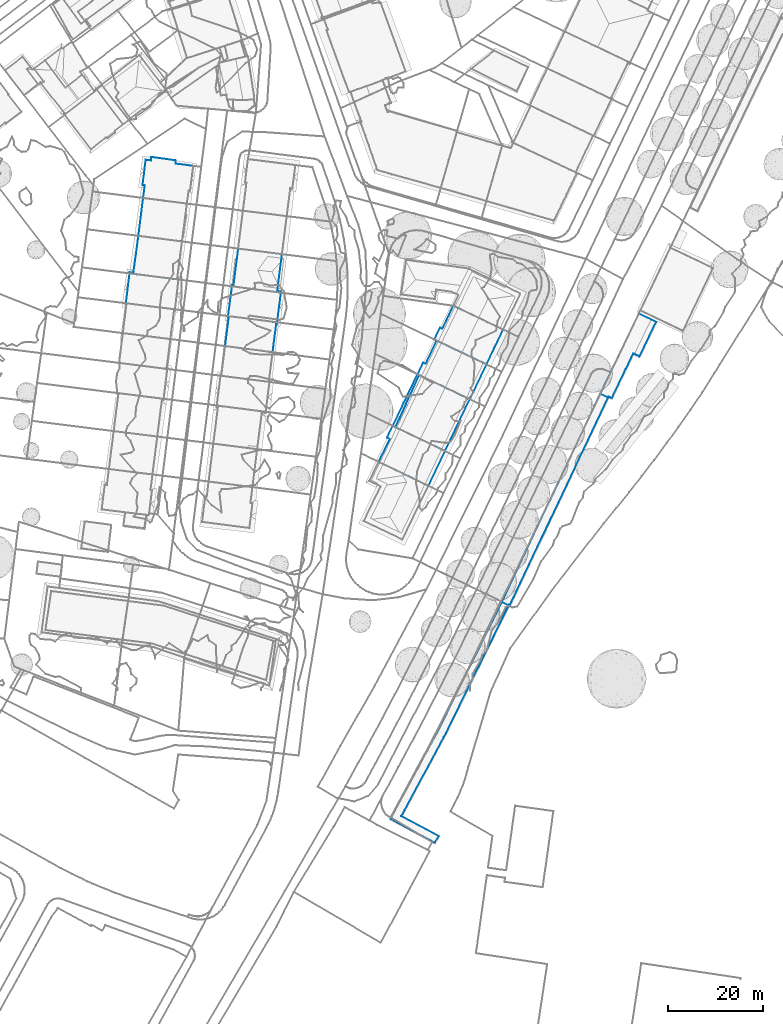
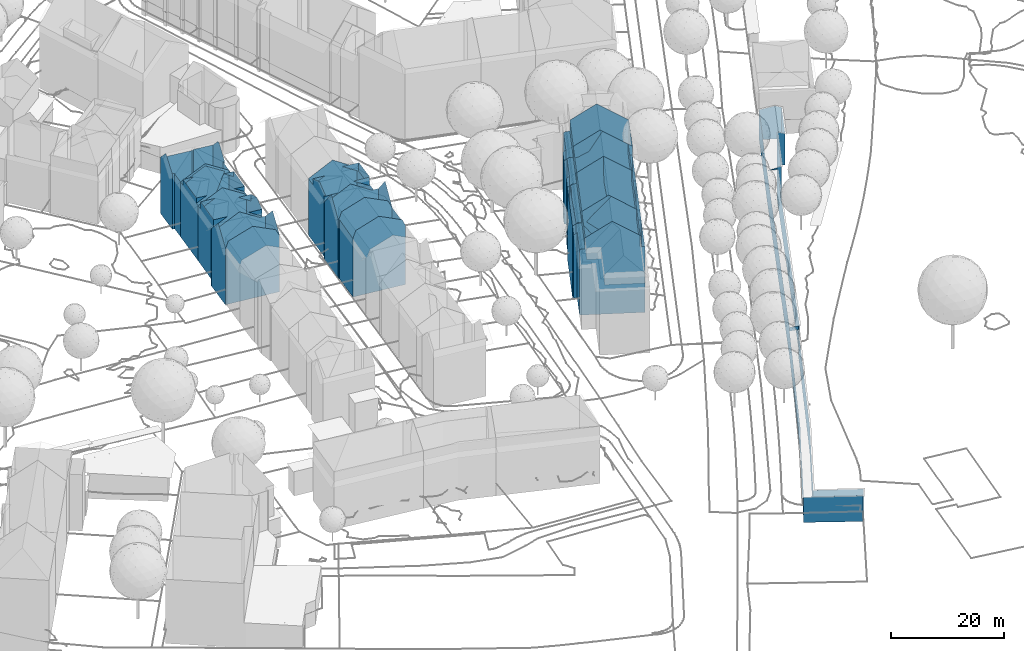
# Not in any storey, part 35 of 494: 13 walls.
"""IFC2X3 model written with IfcOpenShell, lengths in metres."""

from ifc_helpers import new_model, si_unit, frame, origin_with_axes, place, context, subcontext, project, faceted_brep, element, save


model = new_model("IFC2X3")

# Units and contexts
model_context = context("Model", 3, precision=1e-05, world=origin_with_axes())
body_context = subcontext(model_context, "Body", "Model", "MODEL_VIEW")
ifc_project = project(units=[si_unit("AREAUNIT", "SQUARE_METRE"), si_unit("LENGTHUNIT", "METRE")], contexts=[model_context])

# Walls
wall_1_placement = place(None, frame((495.5237320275, 54.2186160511, 497.0566), z_axis=(0.0, 0.0, 1.0), x_axis=(1.0, 0.0, 0.0)))
element("IfcWall", 1, at=wall_1_placement, Name="Wall 0", context=body_context, shape_type="Brep", body=[
    faceted_brep([(2.0359999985, 2.9228000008, 15.9155), (0.5759999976, -0.2784000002, 0.508), (2.2589999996, 3.4111000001, 0.44), (5.2080000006, 10.8144000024, 15.4666), (5.5590000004, 10.6464000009, 0.309), (5.2080000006, 10.8144000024, 0.0001), (0.0, 0.0, 15.4666), (2.3440000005, 4.8662, 15.4666), (0.0, 0.0, 0.0), (2.3440000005, 4.8662, 0.0001), (0.5759999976, -0.2784000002, 15.9735), (0.5370000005, -0.2588, 0.473), (5.5590000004, 10.6464000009, 15.7755)], [[[0, 1, 2]], [[3, 4, 5]], [[6, 7, 8]], [[5, 9, 3]], [[10, 6, 1]], [[6, 11, 1]], [[11, 6, 8]], [[4, 12, 2]], [[2, 12, 0]], [[10, 1, 0]], [[12, 4, 3]], [[7, 9, 8]], [[9, 7, 3]]]),
])
wall_2_placement = place(None, frame((495.5237320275, 54.2186160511, 497.0566), z_axis=(0.0, 0.0, 1.0), x_axis=(1.0, 0.0, 0.0)))
element("IfcWall", 2, at=wall_2_placement, Name="Wall 1", context=body_context, shape_type="Brep", body=[
    faceted_brep([(13.0480000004, 0.871100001, 16.1765), (12.3139999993, -0.6543000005, 18.5382), (10.2449999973, -4.9483000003, 16.1765), (15.4690000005, 5.8974000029, 16.1765), (15.4690000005, 5.8974000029, 18.5383), (14.8159999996, 4.5410000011, 16.1765), (1.4809999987, -0.7148999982, 18.5573), (4.068, 4.6552000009, 18.5573), (1.4809999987, -0.7148999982, 16.1765), (6.6919999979, 10.1025000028, 16.7714), (6.0260000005, 8.7187000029, 16.1765), (6.6919999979, 10.1025000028, 16.1765), (2.868999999, 4.6152000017, 15.9285), (2.8189999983, 4.638600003, 15.8845), (2.868999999, 4.6152000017, 1.9099), (2.8189999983, 4.638600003, 1.9099), (2.0370000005, 2.8769000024, 6.1695), (2.2569999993, 3.3349000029, 1.9099), (1.5599999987, 1.8789000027, 15.9345), (2.1970000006, 3.2099000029, 15.9325), (1.5599999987, 1.8789000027, 1.9099), (0.5759999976, -0.2784000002, 15.9745), (0.5759999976, -0.2784000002, 1.9099), (5.5590000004, 10.6464000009, 15.7755), (5.5590000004, 10.6464000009, 1.9099), (16.1620000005, 5.5644000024, 16.1765), (10.9659999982, -5.2958999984, 16.1765), (16.1620000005, 5.5644000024, 1.9099), (5.7670000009, -2.7851999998, 21.8379), (10.2449999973, -4.9483000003, 18.5382), (10.9659999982, -5.2958999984, 1.9098), (10.2449999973, -4.9483000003, 1.9098), (0.805999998, -0.3886999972, 16.1765), (5.748999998, -2.7763999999, 1.9099), (6.0159999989, 10.4266999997, 1.9099), (6.0159999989, 10.4266999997, 16.1765), (6.6919999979, 10.1025000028, 1.9099), (10.9839999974, 8.0459000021, 1.9099), (15.4690000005, 5.8974000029, 1.9099), (6.6919999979, 10.1025000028, 18.5573), (10.9839999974, 8.0459000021, 21.8379)], [[[0, 1, 2]], [[3, 4, 5]], [[4, 0, 5]], [[6, 7, 8]], [[7, 9, 10]], [[11, 10, 9]], [[12, 13, 14]], [[15, 14, 13]], [[16, 12, 17]], [[16, 18, 19]], [[18, 16, 20]], [[16, 17, 20]], [[21, 18, 22]], [[15, 13, 23]], [[24, 15, 23]], [[25, 26, 27]], [[2, 28, 6]], [[2, 6, 8]], [[29, 28, 2]], [[26, 2, 30]], [[8, 30, 2]], [[8, 21, 31]], [[21, 8, 32]], [[30, 8, 31]], [[22, 33, 21]], [[21, 33, 31]], [[34, 24, 23]], [[35, 11, 23]], [[36, 23, 11]], [[34, 23, 36]], [[36, 11, 37]], [[25, 27, 38]], [[37, 3, 38]], [[3, 37, 11]], [[9, 39, 40]], [[9, 40, 4]], [[3, 25, 38]], [[4, 3, 9]], [[9, 3, 11]], [[4, 1, 0]], [[29, 2, 1]], [[7, 10, 8]], [[39, 9, 7]], [[19, 12, 16]], [[12, 14, 17]], [[18, 20, 22]], [[26, 30, 27]]]),
])
wall_3_placement = place(None, frame((504.2517320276, 72.3416160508, 498.9665), z_axis=(0.0, 0.0, 1.0), x_axis=(1.0, 0.0, 0.0)))
element("IfcWall", 3, at=wall_3_placement, Name="Wall 0", context=body_context, shape_type="Brep", body=[
    faceted_brep([(12.6840000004, -1.5888999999, 4.0276), (11.811999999, -3.4130999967, 16.1344), (12.0669999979, -2.878899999, 0.0), (13.555999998, 0.2354000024, 16.1424), (12.6840000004, -1.5888999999, 16.1384), (13.3420000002, -0.2138999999, 0.0), (14.4289999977, 2.0596000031, 8.0722), (14.4289999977, 2.0596000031, 0.0), (10.9389999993, -5.2372999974, 12.0938), (10.9389999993, -5.2372999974, 4.0216), (10.9389999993, -5.2372999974, 8.0582), (10.9389999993, -5.2372999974, 0.0), (1.4849999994, -0.7108999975, 16.6474), (2.7699999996, 1.9570000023, 16.6474), (1.4849999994, -0.7108999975, 14.2666), (5.0020000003, 6.5898000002, 16.6474), (2.9349999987, 2.2998000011, 14.2666), (5.0020000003, 6.5898000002, 14.2666), (3.3110000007, 5.6563000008, 0.0), (3.0940000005, 5.2031000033, 3.4127), (3.9849999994, 7.0654000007, 0.0), (1.6769999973, 2.2412, 0.0), (1.6769999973, 2.2412, 13.9836), (2.2540000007, 3.447300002, 0.0), (3.1349999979, 5.2881000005, 13.9766), (3.9849999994, 7.0654000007, 13.9726), (1.3539999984, 2.3965000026, 3.7946), (1.3719999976, 2.3867000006, 13.7157), (1.1909999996, 2.4736000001, 0.0), (0.0, 0.0, 13.5567), (0.0, 0.0, 0.0), (4.0260000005, 7.0596000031, 0.0), (4.0260000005, 7.0596000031, 14.0036), (5.7769999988, -2.7655999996, 0.0), (0.8079999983, -0.3866999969, 0.0), (1.4849999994, -0.7108999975, 0.0), (10.9389999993, -5.2372999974, 16.1304), (5.7769999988, -2.7655999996, 19.9271), (0.8079999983, -0.3866999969, 14.2666), (9.2909999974, 4.5293000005, 19.9271), (4.3259999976, 6.9150000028, 14.2666), (5.0020000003, 6.5898000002, 0.0), (14.4289999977, 2.0596000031, 16.1454), (9.2909999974, 4.5293000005, 0.0), (4.3259999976, 6.9150000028, 0.0), (1.1909999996, 2.4736000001, 13.5567)], [[[0, 1, 2]], [[3, 4, 5]], [[6, 5, 7]], [[1, 8, 2]], [[0, 2, 5]], [[9, 2, 10]], [[9, 11, 2]], [[12, 13, 14]], [[13, 15, 16]], [[16, 14, 13]], [[17, 16, 15]], [[18, 19, 20]], [[21, 22, 19]], [[23, 21, 19]], [[24, 25, 19]], [[18, 23, 19]], [[26, 27, 22]], [[28, 26, 21]], [[22, 21, 26]], [[29, 28, 30]], [[25, 31, 20]], [[31, 25, 32]], [[29, 33, 9]], [[29, 9, 10]], [[8, 14, 10]], [[11, 9, 33]], [[29, 34, 35]], [[33, 29, 35]], [[8, 36, 37]], [[14, 8, 12]], [[34, 29, 30]], [[10, 14, 29]], [[38, 29, 14]], [[12, 8, 37]], [[15, 39, 17]], [[32, 40, 17]], [[32, 17, 41]], [[39, 42, 17]], [[42, 6, 17]], [[6, 41, 17]], [[43, 6, 7]], [[32, 44, 31]], [[32, 41, 44]], [[6, 43, 41]], [[3, 5, 42]], [[4, 0, 5]], [[6, 42, 5]], [[0, 4, 1]], [[36, 8, 1]], [[8, 10, 2]], [[22, 24, 19]], [[20, 19, 25]], [[27, 26, 45]], [[28, 45, 26]], [[45, 28, 29]]]),
])
wall_4_placement = place(None, frame((500.7317320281, 65.0330160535, 498.9665), z_axis=(0.0, 0.0, 1.0), x_axis=(1.0, 0.0, 0.0)))
element("IfcWall", 4, at=wall_4_placement, Name="Wall 0", context=body_context, shape_type="Brep", body=[
    faceted_brep([(13.7829999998, 2.3944999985, 16.6284), (10.2609999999, -4.9180000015, 16.6274), (13.7829999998, 2.3944999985, 14.2666), (1.6799999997, 2.1992000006, 0.0), (1.6799999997, 2.1992000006, 13.9996), (2.9289999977, 4.8095999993, 13.9936), (3.2749999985, 5.5321999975, 0.0), (4.0119999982, 7.0722999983, 3.5056), (4.0119999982, 7.0722999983, 0.0), (1.175999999, 2.441399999, 13.5567), (1.175999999, 2.441399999, 0.0), (0.0, 0.0, 13.5567), (0.0, 0.0, 0.0), (14.4579999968, 2.0713, 14.2666), (10.9539999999, -5.25, 14.2666), (14.4579999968, 2.0713, 0.0), (10.2609999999, -4.9180000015, 14.2666), (5.7759999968, -2.7685000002, 19.928), (1.4839999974, -0.7109000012, 16.6474), (1.4839999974, -0.7109000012, 14.2666), (10.9539999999, -5.25, 0.0), (10.2609999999, -4.9180000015, 0.0), (0.8079999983, -0.3877000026, 0.0), (5.7969999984, -2.7783000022, 0.0), (0.8079999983, -0.3877000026, 14.2666), (4.5700000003, 6.8057000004, 0.0), (9.2969999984, 4.5429999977, 0.0), (4.0119999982, 7.0722999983, 10.028), (13.7829999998, 2.3944999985, 0.0), (4.0119999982, 7.0722999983, 13.9886), (5.004999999, 6.5976999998, 14.2666), (5.004999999, 6.5976999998, 16.6474), (9.2969999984, 4.5429999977, 19.9271), (4.3279999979, 6.9219000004, 14.2666), (3.5739999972, 3.6279000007, 14.2666), (3.5259999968, 3.5263999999, 16.6474)], [[[0, 1, 2]], [[3, 4, 5]], [[6, 3, 5]], [[6, 5, 7]], [[7, 8, 6]], [[9, 3, 10]], [[11, 10, 12]], [[10, 11, 9]], [[13, 14, 15]], [[16, 17, 18]], [[16, 18, 19]], [[14, 16, 20]], [[16, 1, 17]], [[20, 16, 19]], [[19, 11, 21]], [[12, 22, 11]], [[23, 11, 22]], [[20, 19, 21]], [[21, 11, 23]], [[19, 24, 11]], [[8, 7, 25]], [[2, 26, 27]], [[7, 27, 26]], [[26, 2, 28]], [[25, 7, 26]], [[2, 15, 28]], [[27, 29, 30]], [[30, 31, 32]], [[2, 30, 32]], [[13, 15, 2]], [[32, 0, 2]], [[27, 30, 2]], [[30, 29, 33]], [[1, 16, 2]], [[34, 35, 30]], [[18, 35, 19]], [[35, 34, 19]], [[31, 30, 35]], [[5, 29, 27]], [[7, 5, 27]], [[4, 3, 9]], [[14, 20, 15]]]),
])
wall_5_placement = place(None, frame((492.5717320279, 46.6580160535, 498.9665), z_axis=(0.0, 0.0, 1.0), x_axis=(1.0, 0.0, 0.0)))
element("IfcWall", 5, at=wall_5_placement, Name="Wall 0", context=body_context, shape_type="Brep", body=[
    faceted_brep([(13.1979999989, 2.6122999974, 14.2666), (13.1979999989, 2.6122999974, 16.6283), (11.7980000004, -0.2939000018, 16.6283), (9.6889999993, -4.6719000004, 14.8125), (9.6889999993, -4.6719000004, 14.2666), (9.6889999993, -4.6719000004, 16.6283), (2.6789999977, 3.2030999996, 16.6474), (4.4329999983, 6.8456999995, 16.6474), (0.9230000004, -0.4453000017, 14.2666), (4.4329999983, 6.8456999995, 14.2666), (2.3319999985, 4.811499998, 14.0606), (1.7639999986, 5.0946999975, 13.5567), (2.3319999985, 4.811499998, 0.0), (1.7639999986, 5.0946999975, 0.0), (0.0, 0.0, 14.0496), (0.9690000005, 1.998999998, 0.0), (0.0, 0.0, 7.1073), (0.0, 0.0, 0.0), (2.9519999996, 7.5605999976, 0.0), (2.9519999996, 7.5605999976, 13.5567), (13.9179999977, 2.2646999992, 14.2666), (10.4279999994, -5.0283000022, 14.2666), (13.9179999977, 2.2646999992, -0.0001), (5.2089999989, -2.5127000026, 19.928), (0.9230000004, -0.4453000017, 16.6474), (9.6889999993, -4.6719000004, -0.0001), (0.2469999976, -0.1191000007, 14.2666), (5.2339999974, -2.5243999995, -0.0001), (0.1689999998, -0.0820000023, 0.0), (10.4279999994, -5.0283000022, -0.0001), (0.2469999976, -0.1191000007, 0.0), (3.5279999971, 7.2821999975, 14.0646), (3.7579999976, 7.1719000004, 14.2666), (3.9690000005, 7.0692999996, 0.0), (13.1979999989, 2.6122999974, -0.0001), (8.7190000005, 4.7753999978, 0.0), (8.7190000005, 4.7753999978, 19.928)], [[[0, 1, 2]], [[3, 4, 0]], [[3, 0, 2]], [[5, 3, 2]], [[6, 7, 8]], [[7, 9, 8]], [[10, 11, 12]], [[11, 13, 12]], [[14, 15, 16]], [[14, 10, 15]], [[16, 15, 17]], [[12, 15, 10]], [[18, 11, 19]], [[18, 13, 11]], [[20, 21, 22]], [[23, 8, 3]], [[24, 8, 23]], [[3, 5, 23]], [[25, 21, 4]], [[3, 8, 4]], [[4, 8, 16]], [[26, 14, 8]], [[8, 14, 16]], [[16, 27, 4]], [[28, 16, 17]], [[29, 21, 25]], [[25, 4, 27]], [[28, 30, 16]], [[16, 30, 27]], [[31, 32, 9]], [[31, 9, 19]], [[33, 19, 9]], [[18, 19, 33]], [[0, 34, 35]], [[9, 35, 33]], [[35, 9, 0]], [[9, 7, 36]], [[9, 36, 1]], [[34, 20, 22]], [[34, 0, 20]], [[1, 0, 9]], [[8, 24, 6]], [[21, 29, 22]]]),
])
wall_6_placement = place(None, frame((211.8297320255, 101.9383160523, 526.7541), z_axis=(0.0, 0.0, 1.0), x_axis=(1.0, 0.0, 0.0)))
element("IfcWall", 6, at=wall_6_placement, Name="Wall 1", context=body_context, shape_type="Brep", body=[
    faceted_brep([(306.6060000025, -84.6942999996, -22.4562), (306.6080000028, -84.6933999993, -26.1389), (306.6060000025, -84.6942999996, -27.9427), (306.6052000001, -84.6944000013, -21.6243), (306.6070000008, -84.692400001, -27.9427), (308.1209999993, -85.2069999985, -24.706), (308.313000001, -85.2412, -27.9427), (308.1209999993, -85.2069999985, -23.0782), (308.1209999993, -85.2069999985, -26.3349), (308.1209999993, -85.2069999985, -27.9427), (285.512000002, -129.5995999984, -22.1713), (293.3480000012, -133.7763999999, -27.9427), (285.512000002, -129.5995999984, -23.6291), (285.512000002, -129.5995999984, -25.088), (285.512000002, -129.5995999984, -27.9427), (292.4979999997, -135.1669999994, -23.8301), (292.4979999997, -135.1669999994, -27.9427), (292.4979999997, -135.1669999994, -22.3713), (293.3480000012, -133.7763999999, -22.1083), (308.0360000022, -85.378899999, -21.4493), (308.0360000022, -85.378899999, -22.2123), (335.4580000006, -33.1464999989, -22.8461), (338.9510000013, -25.9023999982, -21.1473), (335.4580000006, -33.1464999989, -21.1473), (335.4580000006, -33.1464999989, -27.9427), (338.9510000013, -25.9023999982, -27.9427), (328.8660000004, -41.7870999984, -21.4213), (328.8660000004, -41.7870999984, -21.0533), (327.2420000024, -41.003899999, -21.5843), (327.2420000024, -41.003899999, -21.5393), (289.6669999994, -118.191399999, -27.9427), (289.1790000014, -119.0839999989, -27.9427), (289.6669999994, -118.191399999, -22.4003), (289.1810000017, -119.0791000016, -22.4033), (293.3880000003, -111.3975000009, -22.3783), (293.3880000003, -111.3975000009, -27.9427), (287.0720000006, -123.0791000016, -27.9427), (287.0720000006, -123.0791000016, -22.4153), (288.6020000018, -120.1777000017, -22.4053), (286.7400000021, -123.691399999, -27.9427), (283.2259999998, -130.1728999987, -27.9427), (286.7400000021, -123.691399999, -22.4193), (283.2259999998, -130.1728999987, -22.4413), (294.9710000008, -108.2001999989, -22.3872), (294.9710000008, -108.2001999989, -27.9427), (283.2410000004, -130.1807000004, -22.4383), (327.2400000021, -41.0078000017, -27.9427), (327.6119999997, -40.2362999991, -21.5403), (335.3610000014, -24.1719000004, -27.9426), (335.1650000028, -24.5771999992, -21.4983), (335.3610000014, -24.1719000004, -21.4983), (337.887000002, -25.3896999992, -20.7983), (334.393000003, -32.6328000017, -20.7983), (334.3120000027, -32.5938000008, -20.8203), (334.1680000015, -32.5234999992, -20.8613), (334.2990000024, -32.5879000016, -27.9427), (334.1680000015, -32.5234999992, -27.9427), (329.6530000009, -41.8887000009, -27.9427), (329.6530000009, -41.8887000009, -20.8603), (329.2160000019, -41.6796999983, -20.9813), (328.9720000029, -41.5625, -21.0543), (328.9720000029, -41.5625, -27.9427), (333.6909999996, -33.5137000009, -20.8643), (333.6909999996, -33.5137000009, -27.9427), (332.5610000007, -35.8555000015, -27.9427), (332.5610000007, -35.8555000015, -20.8603), (308.313000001, -85.2412, -25.4999), (328.8660000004, -41.7870999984, -27.9427), (310.5970000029, -80.4120999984, -21.4233), (308.313000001, -85.2412, -21.4283), (306.6070000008, -84.692400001, -21.6243), (324.995000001, -45.7617000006, -21.5833), (324.995000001, -45.7617000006, -27.9427), (308.1209999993, -85.2069999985, -21.4493), (306.5199999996, -88.4638999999, -22.2023), (294.876000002, -112.1572000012, -27.9427), (294.876000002, -112.1572000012, -22.1203), (286.1980000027, -128.3213, -27.9427), (294.4140000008, -113.0175999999, -22.1213), (286.1980000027, -128.3213, -22.1643), (294.4140000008, -113.0175999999, -27.9427), (285.9640000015, -128.7569000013, -22.1663), (285.5199999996, -129.5850000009, -22.1683), (285.9140000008, -128.8506000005, -27.9427)], [[[0, 1, 2]], [[1, 0, 3]], [[1, 4, 2]], [[5, 6, 7]], [[6, 5, 8]], [[6, 8, 9]], [[10, 11, 12]], [[12, 11, 13]], [[13, 11, 14]], [[11, 15, 16]], [[17, 15, 18]], [[19, 3, 20]], [[21, 22, 23]], [[22, 24, 25]], [[26, 27, 28]], [[29, 28, 27]], [[30, 31, 32]], [[32, 31, 33]], [[34, 35, 30]], [[34, 30, 32]], [[36, 37, 31]], [[31, 37, 38]], [[38, 33, 31]], [[39, 40, 41]], [[41, 40, 42]], [[37, 36, 39]], [[37, 39, 41]], [[34, 43, 44]], [[44, 35, 34]], [[43, 0, 44]], [[44, 0, 2]], [[16, 15, 42]], [[45, 15, 17]], [[16, 42, 40]], [[42, 15, 45]], [[46, 47, 48]], [[48, 47, 49]], [[49, 50, 48]], [[22, 25, 48]], [[48, 50, 51]], [[51, 22, 48]], [[52, 53, 21]], [[21, 23, 52]], [[54, 24, 21]], [[21, 53, 54]], [[55, 24, 54]], [[55, 54, 56]], [[57, 58, 59]], [[57, 59, 60]], [[61, 57, 60]], [[54, 62, 56]], [[63, 56, 62]], [[62, 64, 63]], [[65, 58, 64]], [[57, 64, 58]], [[65, 64, 62]], [[60, 27, 26]], [[66, 67, 26]], [[60, 26, 61]], [[67, 61, 26]], [[66, 6, 67]], [[68, 69, 66]], [[26, 68, 66]], [[70, 71, 4]], [[72, 4, 71]], [[29, 47, 28]], [[28, 47, 46]], [[46, 71, 28]], [[72, 71, 46]], [[7, 73, 20]], [[5, 7, 74]], [[75, 8, 5]], [[76, 75, 5]], [[7, 20, 74]], [[76, 5, 74]], [[75, 9, 8]], [[19, 20, 73]], [[77, 78, 79]], [[13, 77, 79]], [[75, 76, 80]], [[80, 76, 78]], [[78, 77, 80]], [[79, 81, 12]], [[82, 10, 12]], [[13, 79, 12]], [[13, 14, 83]], [[77, 13, 83]], [[12, 81, 82]], [[70, 1, 3]], [[1, 70, 4]], [[6, 69, 73]], [[6, 73, 7]], [[18, 11, 10]], [[11, 18, 15]], [[3, 0, 20]], [[21, 24, 22]]]),
])
wall_7_placement = place(None, frame((439.5667320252, 79.9246160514, 499.5705), z_axis=(0.0, 0.0, 1.0), x_axis=(1.0, 0.0, 0.0)))
element("IfcWall", 7, at=wall_7_placement, Name="Wall 0", context=body_context, shape_type="Brep", body=[
    faceted_brep([(10.3030000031, -1.2811999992, 12.2708), (10.3030000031, -1.2811999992, 0.0), (10.6560000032, 1.7294999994, 0.0), (10.2280000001, -1.2714999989, 12.2698), (10.2280000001, -1.2714999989, 0.0), (9.5560000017, -1.1875, 0.0), (9.5560000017, -1.1875, 13.5987), (5.2080000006, -0.6464999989, 0.0), (5.2080000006, -0.6464999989, 15.5125), (0.5260000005, -0.0643999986, 13.5987), (0.1130000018, -0.0136999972, 12.3288), (0.5350000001, -0.0654000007, 0.0), (0.0, 0.0, 0.0), (0.1950000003, 1.6123000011, 13.9267), (0.375, 3.0947000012, 0.0), (0.3890000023, 3.2090000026, 15.5125), (0.7589999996, 6.2675999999, 12.3878), (0.7589999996, 6.2675999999, 0.0), (0.4790000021, 3.9570000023, 0.0), (2.3210000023, 6.0713, 0.0), (2.3210000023, 6.0713, 12.3688), (0.432, 3.5683999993, 5.2085), (0.4519999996, 3.7324000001, 14.9796), (6.074000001, 5.6016000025, 14.5366), (9.949000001, 5.1162, 12.2668), (6.074000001, 5.6016000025, 0.0), (10.7440000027, 2.4794999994, 0.0), (11.0370000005, 4.9805000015, 12.2518), (10.745000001, 2.4912, 14.7946), (10.6970000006, 2.0811000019, 4.7895), (10.6909999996, 2.0274000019, 15.2685), (10.6630000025, 1.7871000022, 15.5135), (11.0370000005, 4.9805000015, 0.0), (9.949000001, 5.1162, 0.0), (0.0, 0.0, 12.3268), (0.4840000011, 3.9912, 14.7156)], [[[0, 1, 2]], [[1, 0, 3]], [[4, 1, 3]], [[3, 5, 4]], [[6, 7, 5]], [[8, 9, 7]], [[9, 10, 11]], [[12, 13, 14]], [[15, 14, 13]], [[10, 12, 11]], [[16, 17, 18]], [[19, 16, 20]], [[19, 17, 16]], [[21, 14, 15]], [[22, 18, 21]], [[21, 18, 14]], [[23, 24, 25]], [[20, 25, 19]], [[26, 27, 28]], [[26, 28, 29]], [[30, 31, 29]], [[29, 2, 26]], [[32, 27, 26]], [[24, 27, 33]], [[27, 32, 33]], [[2, 31, 0]], [[6, 5, 3]], [[8, 7, 6]], [[9, 11, 7]], [[12, 34, 13]], [[34, 12, 10]], [[35, 16, 18]], [[21, 15, 22]], [[35, 18, 22]], [[24, 33, 25]], [[23, 25, 20]], [[30, 29, 28]], [[31, 2, 29]]]),
])
wall_8_placement = place(None, frame((440.3257320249, 86.1922160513, 499.5705), z_axis=(0.0, 0.0, 1.0), x_axis=(1.0, 0.0, 0.0)))
element("IfcWall", 8, at=wall_8_placement, Name="Wall 0", context=body_context, shape_type="Brep", body=[
    faceted_brep([(10.3030000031, -1.0713, 12.0308), (10.3030000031, -1.0713, 0.0), (10.006000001, -1.0321999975, 0.0), (10.2780000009, -1.2870999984, 12.2518), (10.2780000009, -1.2870999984, 6.1254), (10.2780000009, -1.2870999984, 9.1891), (0.0, 0.0, 3.7616), (0.0300000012, 0.2432000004, 0.0), (0.0, 0.0, 0.0), (3.5700000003, 0.4648000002, 13.4567), (0.9060000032, 0.8340000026, 13.4567), (0.9070000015, 0.8340000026, 11.9149), (1.7050000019, 6.7637000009, 13.4567), (4.3950000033, 6.4238000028, 13.4567), (1.7050000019, 6.7637000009, 11.9019), (8.2420000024, 4.8280999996, 13.2887), (10.7250000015, 4.4932000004, 13.2887), (10.7250000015, 4.4932000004, 11.8319), (10.0840000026, -0.4355999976, 13.2887), (7.5610000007, -0.0878999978, 13.2887), (10.0840000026, -0.4355999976, 11.8089), (1.8550000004, 7.876000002, 0.0), (1.8550000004, 7.876000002, 11.8999), (6.4160000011, 7.2919999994, 0.0), (11.0130000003, 6.7030999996, 11.8429), (6.4160000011, 7.2919999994, 14.5366), (11.0130000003, 6.7030999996, 0.0), (0.814000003, 0.1484000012, 12.1258), (0.0300000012, 0.2432000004, 12.1388), (0.814000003, 0.1484000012, 0.0), (5.3150000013, -0.6659999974, 14.5366), (9.1900000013, -1.1513999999, 12.2668), (5.3150000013, -0.6659999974, 0.0), (1.5620000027, -0.1963, 12.3688), (10.2780000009, -1.2870999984, 0.0), (0.0, 0.0, 12.3878), (1.5620000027, -0.1963, 0.0), (0.8420000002, 0.3535000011, 11.9159), (0.9200000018, 0.938500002, 13.4847), (0.8420000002, 0.3535000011, 0.0), (0.9420000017, 1.1035000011, 13.5297), (1.6760000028, 6.5488000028, 13.5197), (10.3950000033, 1.9560000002, 14.2946), (10.0940000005, -0.3594000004, 13.3217), (10.7250000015, 4.4932000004, 0.0), (10.006000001, -1.0321999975, 9.0251), (10.0350000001, -0.811499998, 11.8069), (10.006000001, -1.0321999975, 12.0338), (10.006000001, -1.0321999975, 4.5126)], [[[0, 1, 2]], [[1, 0, 3]], [[4, 1, 5]], [[6, 7, 8]], [[9, 10, 11]], [[12, 13, 14]], [[15, 16, 17]], [[18, 19, 20]], [[21, 22, 23]], [[24, 22, 25]], [[24, 26, 23]], [[24, 23, 22]], [[27, 7, 28]], [[27, 29, 7]], [[30, 4, 5]], [[3, 31, 5]], [[32, 4, 33]], [[34, 4, 32]], [[30, 5, 31]], [[32, 33, 6]], [[6, 33, 35]], [[8, 36, 6]], [[6, 36, 32]], [[4, 30, 33]], [[27, 37, 29]], [[11, 10, 38]], [[29, 37, 39]], [[37, 11, 39]], [[11, 38, 40]], [[40, 41, 14]], [[12, 14, 41]], [[14, 39, 11]], [[21, 39, 14]], [[22, 21, 14]], [[14, 11, 40]], [[42, 43, 20]], [[18, 20, 43]], [[42, 20, 17]], [[20, 26, 17]], [[17, 16, 42]], [[17, 26, 24]], [[44, 26, 20]], [[20, 45, 44]], [[46, 47, 45]], [[44, 48, 2]], [[44, 45, 48]], [[45, 20, 46]], [[47, 0, 45]], [[48, 45, 0]], [[0, 2, 48]], [[1, 3, 5]], [[4, 34, 1]], [[6, 35, 28]], [[28, 7, 6]]]),
])
wall_9_placement = place(None, frame((442.1807320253, 94.0682160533, 499.5705), z_axis=(0.0, 0.0, 1.0), x_axis=(1.0, 0.0, 0.0)))
element("IfcWall", 9, at=wall_9_placement, Name="Wall 0", context=body_context, shape_type="Brep", body=[
    faceted_brep([(0.8740000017, 6.9442999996, 13.0368), (2.9250000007, 6.6678999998, 13.0368), (0.8729999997, 6.9442999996, 11.8499), (2.075000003, 0.5233999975, 13.0368), (0.1000000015, 0.7909999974, 13.0368), (0.0990000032, 0.7909999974, 11.8939), (9.2780000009, -0.2470999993, 12.9528), (7.3949999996, 0.0174999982, 12.9528), (9.2780000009, -0.2470999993, 11.8469), (8.075000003, 4.927699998, 12.9528), (9.9170000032, 4.6688999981, 12.9528), (9.9170000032, 4.6688999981, 11.8709), (0.9990000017, 7.9422999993, 0.0), (0.9990000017, 7.9422999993, 11.8429), (5.6590000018, 7.3456999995, 0.0), (10.1900000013, 6.7645999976, 11.8809), (5.6590000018, 7.3456999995, 14.5366), (10.1900000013, 6.7645999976, 0.0), (9.1579999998, -1.1729000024, 0.0), (9.1579999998, -1.1729000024, 11.8429), (4.5610000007, -0.5840000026, 0.0), (0.0, 0.0, 11.8999), (0.0, 0.0, 0.0), (4.5610000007, -0.5840000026, 14.5366), (0.1190000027, 0.9432999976, 13.0858), (0.8680000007, 6.8993999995, 0.0), (0.8680000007, 6.8993999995, 13.0518), (9.887000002, 4.4354999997, 13.0428), (9.3049999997, -0.0391000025, 13.0288)], [[[0, 1, 2]], [[3, 4, 5]], [[6, 7, 8]], [[9, 10, 11]], [[12, 13, 14]], [[15, 13, 16]], [[15, 17, 14]], [[15, 14, 13]], [[18, 19, 20]], [[20, 19, 21]], [[20, 21, 22]], [[21, 19, 23]], [[5, 4, 24]], [[25, 22, 5]], [[5, 22, 21]], [[5, 24, 25]], [[2, 26, 0]], [[12, 24, 2]], [[24, 12, 25]], [[13, 12, 2]], [[2, 24, 26]], [[11, 10, 27]], [[11, 17, 15]], [[17, 11, 8]], [[11, 27, 8]], [[28, 6, 8]], [[19, 18, 17]], [[8, 19, 17]], [[8, 27, 28]]]),
])
wall_10_placement = place(None, frame((443.0627320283, 104.7566160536, 499.5705), z_axis=(0.0, 0.0, 1.0), x_axis=(1.0, 0.0, 0.0)))
element("IfcWall", 10, at=wall_10_placement, Name="Wall 0", context=body_context, shape_type="Brep", body=[
    faceted_brep([(10.2789999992, 1.178799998, 0.0), (10.2789999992, 1.1807000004, 14.2356), (10.1719999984, 0.3388999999, 13.4157), (10.1490000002, 0.1534000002, 2.5588), (10.0629999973, -0.5175000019, 12.5828), (9.9739999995, -1.2206999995, 0.0), (6.987999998, 5.1581999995, 0.0), (6.987999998, 5.1581999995, 11.4229), (6.9019999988, 4.4824999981, 0.0), (6.9019999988, 4.4824999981, 12.0919), (6.9469999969, 4.8388999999, 11.7389), (7.2829999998, 4.4335999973, 12.0869), (7.9129999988, 4.3535999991, 12.0799), (7.9679999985, 4.3456999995, 0.0), (9.9739999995, -1.2206999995, 11.9009), (9.6659999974, -1.1816000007, 11.8959), (9.6659999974, -1.1816000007, 0.0), (9.3079999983, -3.9238000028, 11.8809), (4.7769999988, -3.3427000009, 0.0), (9.3079999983, -3.9238000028, 0.0), (10.4339999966, 2.4043000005, 13.6347), (10.3559999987, 1.7900999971, 14.2416), (10.3859999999, 2.0244999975, 0.0), (8.9569999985, 4.2206999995, 12.0689), (10.6379999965, 4.0068999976, 0.0), (9.498999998, 4.1523999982, 0.0), (1.8369999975, 5.8720999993, 0.0), (1.8369999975, 5.8720999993, 11.4229), (1.743999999, 5.1367999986, 0.0), (0.0, 0.0, 11.9719), (0.3299999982, 2.6259999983, 0.0), (0.0, 0.0, 0.0), (0.4549999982, -0.0566000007, 0.0), (0.4549999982, -0.0566000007, 11.9769), (0.4339999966, -0.2275000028, 0.0), (0.4339999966, -0.2275000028, 11.8249), (0.1169999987, -2.746100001, 0.0), (0.2799999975, -1.4550000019, 11.8339), (0.2919999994, -1.3553999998, 0.0), (0.1169999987, -2.746100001, 11.8429), (4.7769999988, -3.3427000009, 14.5366), (0.6629999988, 5.2744999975, 12.1609), (1.743999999, 5.1367999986, 12.1489), (0.3609999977, 2.870199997, 14.5366), (0.6629999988, 5.2744999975, 0.0), (10.6379999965, 4.0068999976, 12.0499)], [[[0, 1, 2]], [[0, 2, 3]], [[2, 4, 3]], [[4, 5, 3]], [[3, 5, 0]], [[6, 7, 8]], [[9, 8, 10]], [[8, 9, 11]], [[11, 12, 13]], [[11, 13, 8]], [[14, 15, 16]], [[5, 4, 14]], [[17, 18, 19]], [[16, 15, 17]], [[19, 16, 17]], [[20, 21, 22]], [[12, 23, 13]], [[20, 22, 24]], [[13, 23, 25]], [[23, 24, 25]], [[21, 0, 22]], [[26, 27, 6]], [[28, 27, 26]], [[29, 30, 31]], [[32, 33, 29]], [[29, 31, 32]], [[34, 35, 32]], [[35, 33, 32]], [[36, 37, 38]], [[39, 37, 36]], [[37, 35, 38]], [[35, 34, 38]], [[40, 39, 18]], [[41, 42, 28]], [[30, 43, 44]], [[41, 28, 44]], [[7, 10, 8]], [[14, 16, 5]], [[40, 18, 17]], [[20, 24, 45]], [[45, 24, 23]], [[1, 0, 21]], [[7, 6, 27]], [[27, 28, 42]], [[43, 30, 29]], [[39, 36, 18]], [[41, 44, 43]]]),
])
wall_11_placement = place(None, frame((460.3767320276, 70.9432160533, 499.4055), z_axis=(0.0, 0.0, 1.0), x_axis=(1.0, 0.0, 0.0)))
element("IfcWall", 11, at=wall_11_placement, Name="Wall 0", context=body_context, shape_type="Brep", body=[
    faceted_brep([(9.3729999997, -1.2061000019, 14.1246), (4.932, -0.6358000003, 0.0), (9.3729999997, -1.2061000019, 0.0), (5.6710000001, 5.6532999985, 16.0924), (10.112999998, 5.0868999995, 14.1246), (5.6710000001, 5.6532999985, 0.0), (4.932, -0.6358000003, 16.0924), (0.5439999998, -0.0703000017, 14.2016), (1.2829999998, 6.2137999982, 14.2016), (1.2829999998, 6.2137999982, 0.0), (0.0, 0.0, 12.6108), (0.1699999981, 1.3446999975, 12.6458), (0.0, 0.0, 0.0), (0.4100000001, 3.240199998, 12.6958), (0.2740000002, 2.1669999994, 0.0), (0.7630000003, 6.0273000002, 0.0), (0.7630000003, 6.0273000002, 12.7678), (0.7709999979, 6.2782999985, 12.7048), (0.7709999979, 6.2782999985, 0.0), (0.7199999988, 6.0321999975, 3.0677), (0.7009999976, 6.0350999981, 12.5878), (0.6499999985, 6.0419999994, 0.0), (0.6490000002, 6.0419999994, 12.4368), (0.6050000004, 6.0478000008, 12.4368), (0.6050000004, 6.0478000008, 0.0), (0.6359999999, 6.2967999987, 12.7068), (0.6359999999, 6.2967999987, 0.0), (10.9140000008, 4.9842999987, 12.4538), (10.9010000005, 4.8817999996, 0.0), (10.9140000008, 4.9842999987, 0.0), (10.8609999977, 4.9912, 12.4538), (10.2229999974, 0.7294999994, 0.0), (10.7339999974, 4.7557999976, 12.6728), (9.9679999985, -1.2831999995, 0.0), (10.7339999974, 4.7557999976, 0.0), (10.8829999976, 4.7362999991, 0.0), (10.8829999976, 4.7362999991, 12.3398), (10.9010000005, 4.8827999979, 12.3378), (10.112999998, 5.0868999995, 0.0), (9.9679999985, -1.2831999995, 12.7957)], [[[0, 1, 2]], [[3, 4, 5]], [[6, 7, 1]], [[8, 5, 9]], [[10, 11, 12]], [[11, 13, 14]], [[11, 14, 12]], [[14, 13, 15]], [[15, 13, 16]], [[7, 10, 12]], [[17, 9, 18]], [[19, 20, 21]], [[16, 19, 15]], [[19, 21, 15]], [[21, 22, 23]], [[21, 23, 24]], [[25, 18, 26]], [[18, 25, 17]], [[24, 23, 25]], [[25, 26, 24]], [[27, 28, 29]], [[29, 30, 27]], [[31, 32, 33]], [[32, 31, 34]], [[35, 36, 32]], [[32, 34, 35]], [[35, 28, 37]], [[37, 36, 35]], [[4, 30, 38]], [[33, 39, 0]], [[2, 33, 0]], [[6, 1, 0]], [[4, 38, 5]], [[7, 12, 1]], [[3, 5, 8]], [[8, 9, 17]], [[20, 19, 16]], [[22, 21, 20]], [[37, 28, 27]], [[32, 39, 33]], [[30, 29, 38]]]),
])
wall_12_placement = place(None, frame((461.8007320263, 83.4783160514, 499.4055), z_axis=(0.0, 0.0, 1.0), x_axis=(1.0, 0.0, 0.0)))
element("IfcWall", 12, at=wall_12_placement, Name="Wall 0", context=body_context, shape_type="Brep", body=[
    faceted_brep([(10.504999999, 6.7481000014, 12.1808), (9.5230000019, -0.9912, 0.0), (10.504999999, 6.7481000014, 0.0), (10.3080000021, -1.0936999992, 12.2378), (10.3080000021, -1.0936999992, 0.0), (9.5230000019, -0.9912, 12.2248), (0.2199999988, 0.2246000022, 4.4676), (0.0320000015, 0.2481000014, 0.0), (0.3489999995, 0.2070000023, 13.6167), (0.2290000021, 0.2237000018, 0.0), (0.3489999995, 0.2071000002, 0.0), (0.3489999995, 0.2071000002, 3.4027), (0.3489999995, 0.2071000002, 10.212), (0.569000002, -0.0009999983, 12.2988), (2.6339999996, -0.2421999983, 13.5367), (0.0080000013, 0.0655000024, 13.5367), (0.0080000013, 0.0655000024, 12.2988), (1.0560000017, 5.8027999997, 13.5367), (3.300999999, 5.5391000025, 13.5367), (1.0560000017, 5.8027999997, 12.1878), (6.9679999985, 5.6055000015, 14.1996), (9.5419999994, 5.3037, 14.1986), (8.7230000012, 5.3993999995, 13.1437), (10.0289999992, 5.246100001, 14.2006), (10.0289999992, 5.246100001, 12.3588), (9.9910000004, 4.9209000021, 14.3076), (9.5089999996, 0.8262000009, 12.3588), (9.5089999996, 0.8262000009, 14.3076), (9.4640000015, 0.4405000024, 14.1876), (9.4640000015, 0.4405000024, 12.3588), (9.0439999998, 0.4893000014, 12.6108), (7.6050000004, 0.6592000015, 13.4767), (9.0439999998, 0.4893000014, 14.1856), (8.050999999, 0.6064999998, 13.2087), (6.425999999, 0.7988000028, 14.1856), (10.2780000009, -1.3319999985, 12.5228), (10.2780000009, -1.3319999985, 0.0), (1.3229999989, 7.9131000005, 0.0), (1.3229999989, 7.9131000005, 12.1988), (4.6160000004, 7.4951000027, 0.0), (5.9039999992, 7.3311000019, 0.0), (4.6160000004, 7.4951000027, 14.1796), (5.9039999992, 7.3311000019, 14.9506), (9.0280000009, -1.1699000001, 12.5048), (9.0280000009, -1.1699000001, 0.0), (4.9730000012, -0.6435000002, 0.0), (4.9730000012, -0.6435000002, 14.9466), (0.7069999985, -0.0918000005, 12.3868), (0.0, 0.0, 12.3768), (0.7069999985, -0.0918000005, 0.0), (0.0, 0.0, 0.0), (0.0320000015, 0.2481000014, 13.6187), (1.0560000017, 5.8027999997, 0.0), (0.4750000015, 1.2061000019, 0.0), (0.6799999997, 2.8300999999, 14.7936)], [[[0, 1, 2]], [[3, 4, 5]], [[6, 7, 8]], [[7, 6, 9]], [[9, 6, 10]], [[11, 6, 12]], [[11, 10, 6]], [[13, 14, 15]], [[15, 16, 13]], [[17, 18, 19]], [[20, 21, 22]], [[22, 23, 24]], [[23, 22, 21]], [[23, 25, 24]], [[25, 26, 24]], [[27, 28, 29]], [[29, 26, 27]], [[27, 26, 25]], [[29, 28, 30]], [[31, 28, 32]], [[31, 33, 28]], [[33, 30, 28]], [[31, 32, 34]], [[4, 35, 36]], [[35, 4, 3]], [[37, 38, 39]], [[40, 39, 38]], [[38, 2, 40]], [[41, 42, 0]], [[0, 2, 41]], [[41, 2, 38]], [[36, 43, 44]], [[43, 36, 35]], [[45, 44, 43]], [[43, 46, 45]], [[47, 48, 49]], [[47, 49, 45]], [[49, 48, 50]], [[47, 45, 46]], [[7, 50, 48]], [[15, 51, 16]], [[7, 48, 16]], [[7, 16, 51]], [[52, 11, 12]], [[53, 11, 52]], [[53, 10, 11]], [[12, 54, 19]], [[19, 54, 17]], [[37, 52, 19]], [[19, 38, 37]], [[12, 19, 52]], [[12, 8, 54]], [[5, 1, 0]], [[1, 5, 4]], [[51, 8, 7]], [[6, 8, 12]]]),
])
wall_13_placement = place(None, frame((461.0127320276, 77.240016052, 499.4055), z_axis=(0.0, 0.0, 1.0), x_axis=(1.0, 0.0, 0.0)))
element("IfcWall", 13, at=wall_13_placement, Name="Wall 0", context=body_context, shape_type="Brep", body=[
    faceted_brep([(0.6889999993, 5.4433999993, 13.3247), (0.7879999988, 6.2382999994, 12.3768), (0.6829999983, 5.3984999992, 0.0), (0.7879999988, 6.2382999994, 0.0), (0.5109999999, 4.0214999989, 15.0205), (1.4949999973, 6.1464999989, 12.3868), (1.4949999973, 6.1464999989, 0.0), (9.4769999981, -1.2098999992, 14.1246), (5.0350000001, -0.6435000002, 0.0), (9.4769999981, -1.2098999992, 0.0), (5.0350000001, -0.6435000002, 16.0924), (0.6469999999, -0.0830000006, 14.2016), (0.1349999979, -0.0185000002, 12.7048), (0.6469999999, -0.0830000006, 0.0), (0.2719999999, 2.1328999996, 15.0195), (0.1959999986, 1.5372000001, 0.0), (0.0, 0.0, 12.7068), (0.0, 0.0, 0.0), (0.3979999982, 3.1231000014, 0.0), (0.1349999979, -0.0185000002, 0.0), (10.743999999, 2.3594000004, 3.4906), (10.7589999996, 2.4785999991, 15.4175), (10.7149999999, 2.1358000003, 8.7851), (10.7980000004, 2.7872000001, 0.0), (10.8000000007, 2.8066999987, 15.0275), (10.686999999, 1.9131000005, 16.0924), (10.5889999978, 1.1436000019, 15.2245), (10.6799999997, 1.8603999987, 0.0), (10.4829999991, 0.3027999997, 0.0), (10.4120000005, -0.2518999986, 13.6487), (10.379999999, -0.5058000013, 1.2939), (10.2780000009, -1.3125, 0.0), (10.2780000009, -1.3125, 12.4538), (10.2249999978, -1.3055999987, 12.4538), (10.8929999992, 3.5390999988, 14.1546), (5.7609999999, 5.5947999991, 14.9466), (9.8159999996, 5.0683999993, 12.5048), (5.7609999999, 5.5947999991, 0.0), (11.0659999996, 4.9052999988, 0.0), (11.0659999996, 4.9052999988, 12.5228), (9.8159999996, 5.0683999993, 0.0), (0.3979999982, 3.1220999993, 16.0924)], [[[0, 1, 2]], [[2, 1, 3]], [[4, 0, 2]], [[3, 1, 5]], [[6, 3, 5]], [[7, 8, 9]], [[10, 11, 8]], [[11, 12, 13]], [[14, 15, 16]], [[15, 17, 16]], [[14, 18, 15]], [[12, 17, 19]], [[17, 12, 16]], [[20, 21, 22]], [[23, 24, 21]], [[22, 21, 25]], [[25, 26, 22]], [[26, 27, 22]], [[20, 22, 27]], [[20, 27, 23]], [[27, 26, 28]], [[28, 29, 30]], [[28, 30, 31]], [[32, 31, 30]], [[31, 32, 33]], [[33, 9, 31]], [[23, 34, 24]], [[35, 36, 37]], [[38, 39, 23]], [[36, 39, 40]], [[39, 38, 40]], [[5, 37, 6]], [[4, 2, 18]], [[4, 18, 41]], [[10, 8, 7]], [[11, 13, 8]], [[12, 19, 13]], [[41, 18, 14]], [[23, 21, 20]], [[26, 29, 28]], [[30, 29, 32]], [[7, 9, 33]], [[36, 40, 37]], [[34, 23, 39]], [[35, 37, 5]]]),
])

save(model, "model.ifc")
